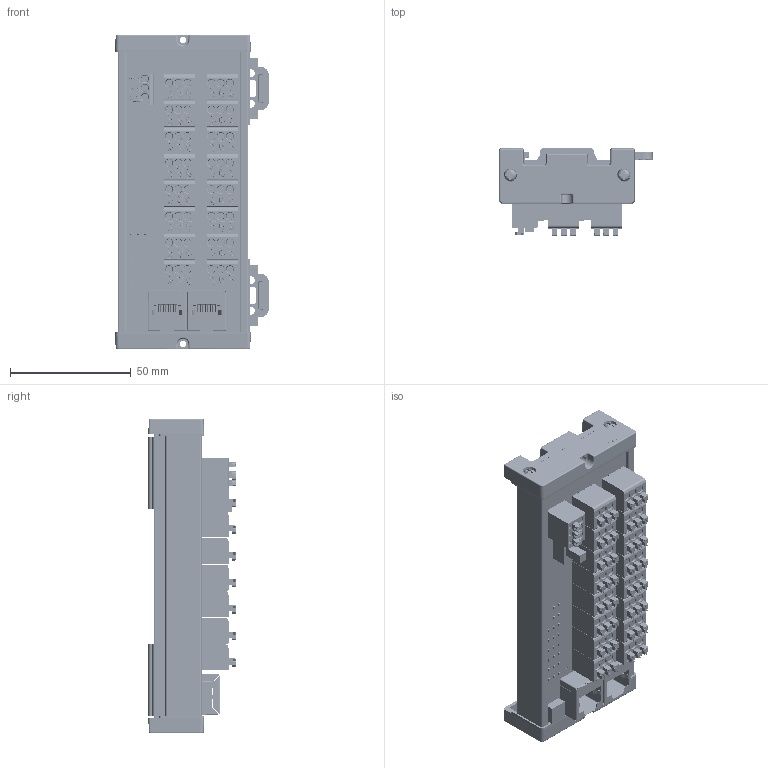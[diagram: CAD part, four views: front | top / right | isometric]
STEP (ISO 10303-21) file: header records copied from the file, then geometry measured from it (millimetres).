
FILE_DESCRIPTION((''),'2;1');
FILE_NAME('XBF2E_XXXX','2025-03-20T10:53:32',('Administrator'),(''),'CREO PARAMETRIC BY PTC INC, 2020033','CREO PARAMETRIC BY PTC INC, 2020033','');
FILE_SCHEMA(('AUTOMOTIVE_DESIGN { 1 0 10303 214 1 1 1 1 }'));
Products named in the file (1): XBF2E_XXXX
Bounding box: 63.49 x 36.05 x 130.2 mm (x, y, z)
Surface area: 85649.3 mm2 (no closed solid volume)
Topology: 0 solids, 825 shells, 10915 faces, 48445 edges, 37009 vertices
Faces by surface type: plane 6564, cylinder 2790, sphere 502, bspline 434, torus 373, cone 176, extrusion 76
Entity records: 603093 total; most frequent: CARTESIAN_POINT 187245, ORIENTED_EDGE 72719, DIRECTION 68294, EDGE_CURVE 47925, VERTEX_POINT 37007, VECTOR 29854, LINE 29778, AXIS2_PLACEMENT_3D 19220
